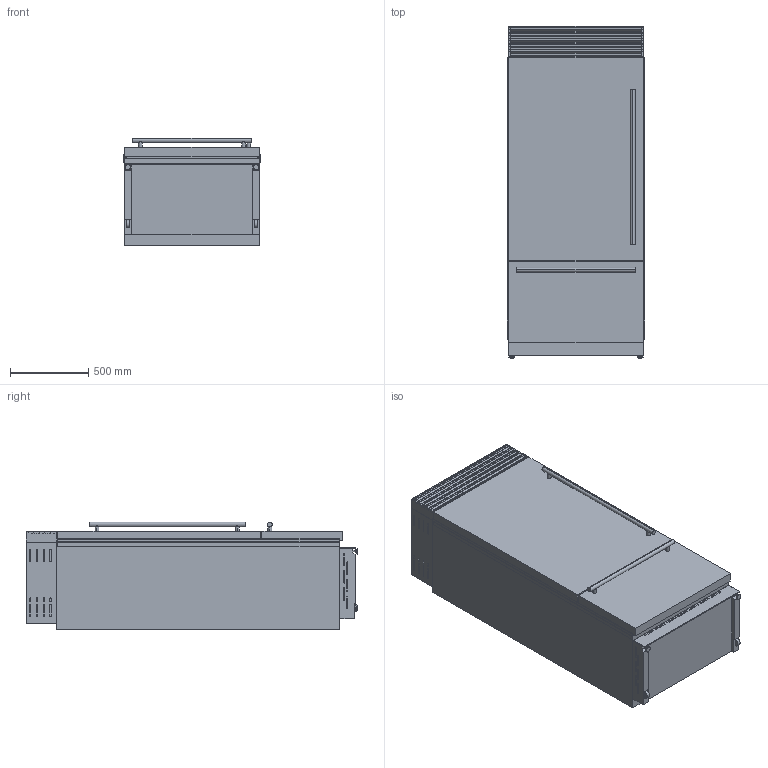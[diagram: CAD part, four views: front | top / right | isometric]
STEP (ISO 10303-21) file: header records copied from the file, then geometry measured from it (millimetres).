
FILE_DESCRIPTION (( 'STEP AP214' ), '1' );
FILE_NAME ('XS_899_0T_ST_6.STEP', '2017-07-07T08:33:25', ( '' ), ( '' ), 'SwSTEP 2.0', 'SolidWorks 2013', '' );
FILE_SCHEMA (( 'AUTOMOTIVE_DESIGN' ));
Length unit declared in the file: millimetre
Products named in the file (1): XS_899_0T_ST_6
Bounding box: 879 x 2120 x 688 mm (x, y, z)
Volume: 1088383293.4 mm3; surface area: 13065414.2 mm2
Topology: 8 solids, 8 shells, 532 faces, 1397 edges, 918 vertices
Faces by surface type: plane 317, cylinder 199, torus 12, cone 4
Entity records: 16950 total; most frequent: CARTESIAN_POINT 3266, DIRECTION 2869, ORIENTED_EDGE 2794, EDGE_CURVE 1397, VECTOR 967, LINE 967, AXIS2_PLACEMENT_3D 951, VERTEX_POINT 918
